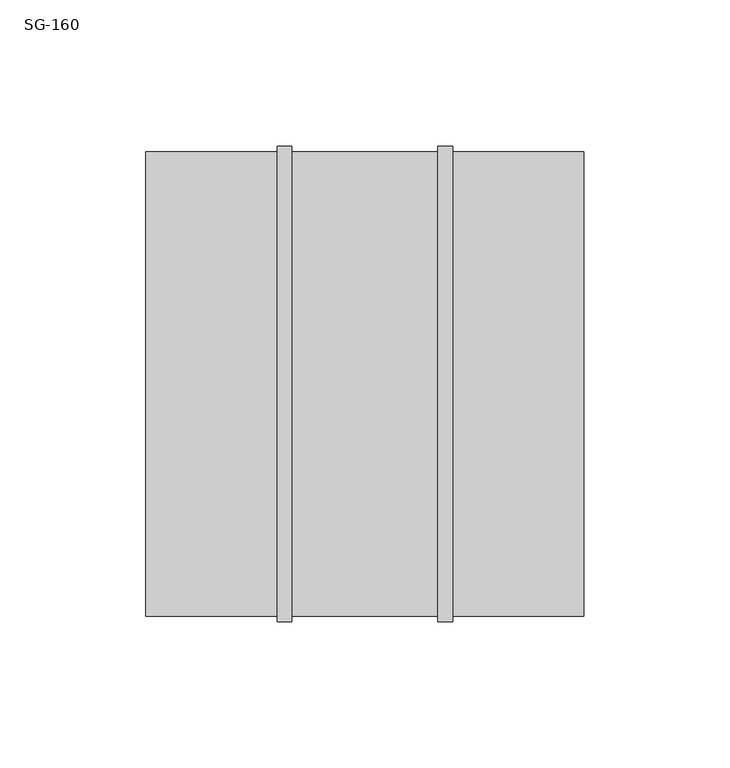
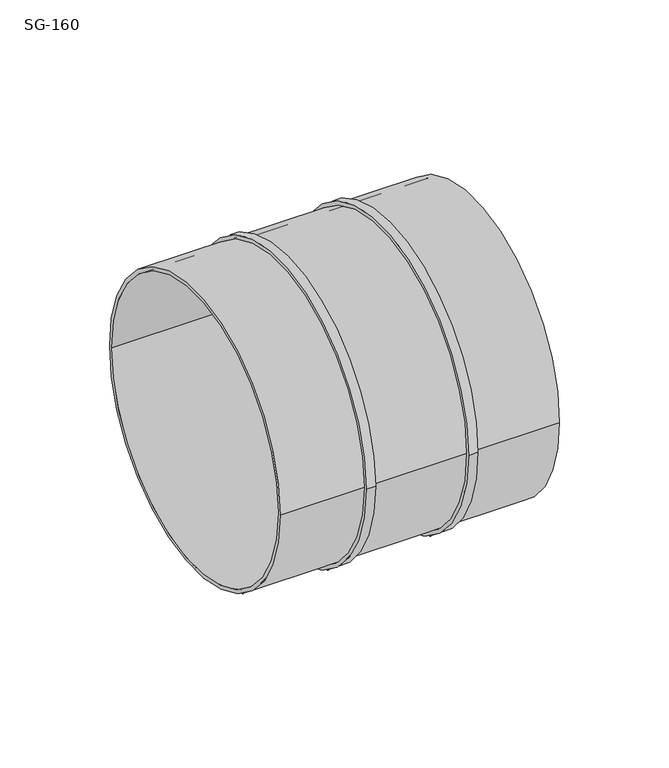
"""IFC4 building model written with IfcOpenShell, lengths in millimetres: damper geometry, СВ_ГибкаяВставка_КанальнаяКруглая_DN100-315_SG : SG-160."""

from ifc_helpers import new_model, si_unit, point, frame, origin, origin_2d, place, context, project, spatial, circle_curve, trimmed, segment, composite_curve, outline, extrude, source, transform, mapped, element, save


def sg_160_08f91c44(model_context):
    return source(origin(), model_context, "Body", "SweptSolid", [
        extrude(outline(composite_curve([segment(trimmed(circle_curve(origin_2d(), 81.5), [point((-81.5, 0.0))], [point((81.5, 0.0))], False, "CARTESIAN"), True, "CONTINUOUS"), segment(trimmed(circle_curve(origin_2d(), 81.5), [point((81.5, 0.0))], [point((-81.5, 0.0))], False, "CARTESIAN"), True, "CONTINUOUS")], self_intersect=False), holes=[composite_curve([segment(trimmed(circle_curve(origin_2d(), 79.5), [point((-79.5, 0.0))], [point((79.5, 0.0))], True, "CARTESIAN"), True, "CONTINUOUS"), segment(trimmed(circle_curve(origin_2d(), 79.5), [point((79.5, 0.0))], [point((-79.5, 0.0))], True, "CARTESIAN"), True, "CONTINUOUS")], self_intersect=False)]), frame((25.0, 0.0, 0.0), z_axis=(1.0, 0.0, 0.0), x_axis=(0.0, 1.0, 0.0)), (0.0, 0.0, 1.0), 5.0),
        extrude(outline(composite_curve([segment(trimmed(circle_curve(origin_2d(), 81.5), [point((-81.5, 0.0))], [point((81.5, 0.0))], False, "CARTESIAN"), True, "CONTINUOUS"), segment(trimmed(circle_curve(origin_2d(), 81.5), [point((81.5, 0.0))], [point((-81.5, 0.0))], False, "CARTESIAN"), True, "CONTINUOUS")], self_intersect=False), holes=[composite_curve([segment(trimmed(circle_curve(origin_2d(), 79.5), [point((-79.5, 0.0))], [point((79.5, 0.0))], True, "CARTESIAN"), True, "CONTINUOUS"), segment(trimmed(circle_curve(origin_2d(), 79.5), [point((79.5, 0.0))], [point((-79.5, 0.0))], True, "CARTESIAN"), True, "CONTINUOUS")], self_intersect=False)]), frame((-30.0, 0.0, 0.0), z_axis=(1.0, 0.0, 0.0), x_axis=(0.0, 1.0, 0.0)), (0.0, 0.0, 1.0), 5.0),
        extrude(outline(composite_curve([segment(trimmed(circle_curve(origin_2d(), 79.5), [point((-79.5, 0.0))], [point((79.5, 0.0))], False, "CARTESIAN"), True, "CONTINUOUS"), segment(trimmed(circle_curve(origin_2d(), 79.5), [point((79.5, 0.0))], [point((-79.5, 0.0))], False, "CARTESIAN"), True, "CONTINUOUS")], self_intersect=False), holes=[composite_curve([segment(trimmed(circle_curve(origin_2d(), 77.5), [point((-77.5, 0.0))], [point((77.5, 0.0))], True, "CARTESIAN"), True, "CONTINUOUS"), segment(trimmed(circle_curve(origin_2d(), 77.5), [point((77.5, 0.0))], [point((-77.5, 0.0))], True, "CARTESIAN"), True, "CONTINUOUS")], self_intersect=False)]), frame((-75.0, 0.0, 0.0), z_axis=(1.0, 0.0, 0.0), x_axis=(0.0, 1.0, 0.0)), (0.0, 0.0, 1.0), 150.0),
    ])


if __name__ == "__main__":
    model = new_model("IFC4")
    model_context = context("Model", 3, world=origin())
    ifc_project = project(units=[si_unit("LENGTHUNIT", "METRE", prefix="MILLI")], contexts=[model_context])
    site = spatial("IfcSite", under=ifc_project)
    building = spatial("IfcBuilding", under=site)
    placement = place(None, origin())
    sg_160_shape = sg_160_08f91c44(model_context)
    element("IfcDamper", 1, ObjectType="СВ_ГибкаяВставка_КанальнаяКруглая_DN100-315_SG : SG-160", at=placement, inside=building, context=model_context, shape_type="MappedRepresentation", body=[
        mapped(sg_160_shape, transform((0.0, 0.0, 0.0), x_axis=(1.0, 0.0, 0.0), y_axis=(0.0, 1.0, 0.0), z_axis=(0.0, 0.0, 1.0))),
    ])
    save(model, "model.ifc")
